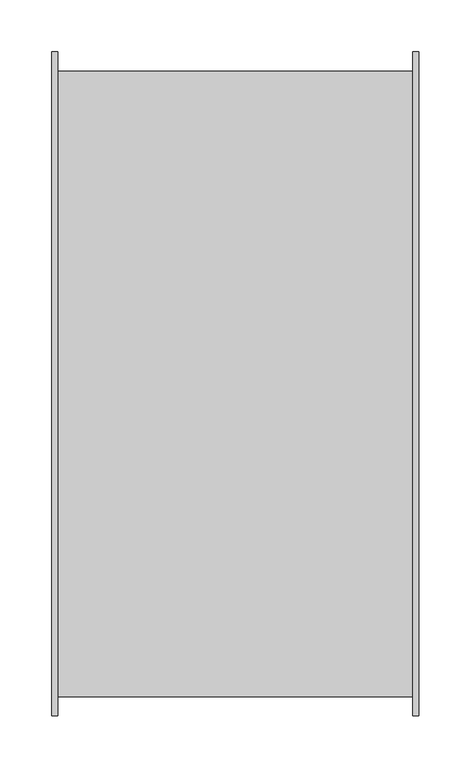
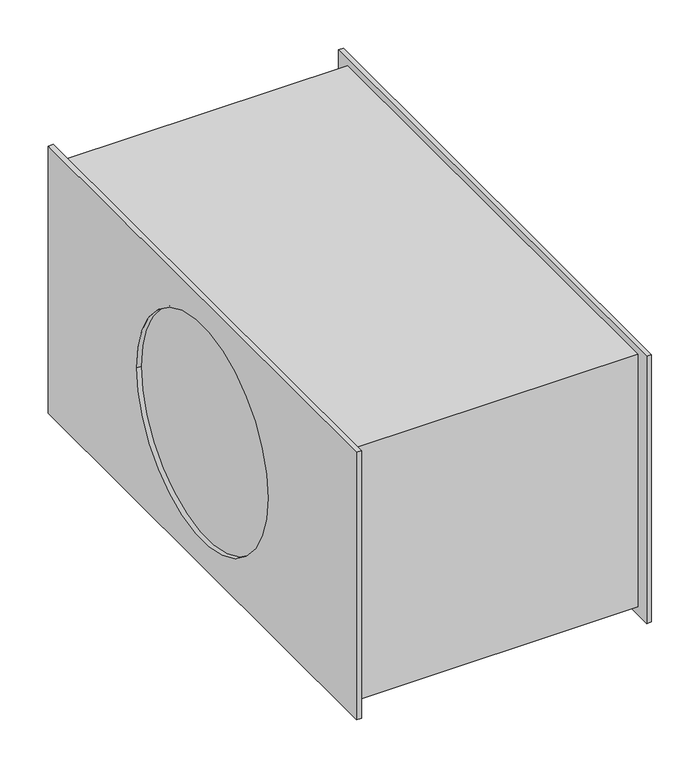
"""IFC4 building model written with IfcOpenShell, lengths in millimetres: unitary equipment geometry, VE-Wentylator-ParaForma-Harmann-JETTEC_REC_EC-Nawiewny : 060/30/2300EC."""

from ifc_helpers import new_model, si_unit, frame, origin, place, context, project, spatial, polyline, circle_curve, source, transform, mapped, element, save
from ifc_brep_helpers import plane_surface, revolved_surface, advanced_brep


def unitary_equipment_16e9e0c7(model_context):
    return source(origin(), model_context, "Body", "AdvancedBrep", [
        advanced_brep(
        [(170.8, -319.5, -169.0), (170.8, -319.5, 169.0), (170.8, 319.5, 169.0), (170.8, 319.5, -169.0), (170.8, -300.8, 160.2), (170.8, -300.8, -159.4), (170.8, 300.8, -159.4), (170.8, 300.8, 160.2), (176.6, -319.5, -169.0), (176.6, 319.5, -169.0), (176.6, 319.5, 169.0), (176.6, -319.5, 169.0), (176.6, -136.0, 0.0), (176.6, 136.0, 0.0), (170.8, 136.0, 0.0), (170.8, -136.0, 0.0), (-170.8, -136.0, 0.0), (-170.8, 136.0, 0.0), (-170.8, -300.8, -159.4), (-170.8, -300.8, 160.2), (-170.8, 300.8, 160.2), (-170.8, 300.8, -159.4), (-176.6, -319.5, -169.0), (-176.6, -319.5, 169.0), (-176.6, 319.5, 169.0), (-176.6, 319.5, -169.0), (-176.6, 136.0, 0.0), (-176.6, -136.0, 0.0), (-170.8, -319.5, -169.0), (-170.8, 319.5, -169.0), (-170.8, 319.5, 169.0), (-170.8, -319.5, 169.0)],
        [
            (0, 1),
            (1, 2),
            (2, 3),
            (3, 0),
            (4, 5),
            (5, 6),
            (6, 7),
            (7, 4),
            (8, 9),
            (9, 10),
            (10, 11),
            (11, 8),
            (12, 13, circle_curve(frame((176.6, 0.0, 0.0), z_axis=(-1.0, 0.0, 0.0), x_axis=(0.0, 1.0, 0.0)), 136.0)),
            (13, 12, circle_curve(frame((176.6, 0.0, 0.0), z_axis=(-1.0, 0.0, 0.0), x_axis=(0.0, 1.0, 0.0)), 136.0)),
            (0, 8),
            (11, 1),
            (10, 2),
            (9, 3),
            (14, 13),
            (12, 15),
            (15, 14, circle_curve(frame((170.8, 0.0, 0.0), z_axis=(-1.0, 0.0, 0.0), x_axis=(0.0, 1.0, 0.0)), 136.0)),
            (14, 15, circle_curve(frame((170.8, 0.0, 0.0), z_axis=(-1.0, 0.0, 0.0), x_axis=(0.0, 1.0, 0.0)), 136.0)),
            (16, 17, circle_curve(frame((-170.8, 0.0, 0.0), z_axis=(-1.0, 0.0, 0.0), x_axis=(0.0, 1.0, 0.0)), 136.0)),
            (17, 16, circle_curve(frame((-170.8, 0.0, 0.0), z_axis=(-1.0, 0.0, 0.0), x_axis=(0.0, 1.0, 0.0)), 136.0)),
            (18, 5),
            (4, 19),
            (19, 18),
            (7, 20),
            (20, 19),
            (6, 21),
            (21, 20),
            (18, 21),
            (22, 23),
            (23, 24),
            (24, 25),
            (25, 22),
            (26, 27, circle_curve(frame((-176.6, 0.0, 0.0), z_axis=(1.0, 0.0, 0.0), x_axis=(0.0, 1.0, 0.0)), 136.0)),
            (27, 26, circle_curve(frame((-176.6, 0.0, 0.0), z_axis=(1.0, 0.0, 0.0), x_axis=(0.0, 1.0, 0.0)), 136.0)),
            (28, 29),
            (29, 30),
            (30, 31),
            (31, 28),
            (22, 28),
            (31, 23),
            (30, 24),
            (29, 25),
            (26, 17),
            (16, 27),
        ],
        [
            plane_surface(frame((170.8, 0.0, 0.0), z_axis=(-1.0, 0.0, 0.0), x_axis=(0.0, 0.0, 1.0))),
            plane_surface(frame((176.6, 0.0, 0.0), z_axis=(1.0, 0.0, 0.0), x_axis=(0.0, 0.0, 1.0))),
            plane_surface(frame((170.8, -319.5, -169.0), z_axis=(0.0, -1.0, 0.0), x_axis=(1.0, 0.0, 0.0))),
            plane_surface(frame((170.8, -319.5, 169.0), z_axis=(0.0, 0.0, 1.0), x_axis=(1.0, 0.0, 0.0))),
            plane_surface(frame((170.8, 319.5, 169.0), z_axis=(0.0, 1.0, 0.0), x_axis=(1.0, 0.0, 0.0))),
            plane_surface(frame((170.8, 319.5, -169.0), z_axis=(0.0, 0.0, -1.0), x_axis=(1.0, 0.0, 0.0))),
            revolved_surface(polyline([(170.8, 136.0, 0.0), (176.6, 136.0, 0.0)]), (170.8, 0.0, 0.0), (-1.0, 0.0, 0.0)),
            plane_surface(frame((-170.8, 0.0, 0.0), z_axis=(-1.0, 0.0, 0.0), x_axis=(0.0, 0.0, 1.0))),
            plane_surface(frame((170.8, 0.0, 0.0), z_axis=(1.0, 0.0, 0.0), x_axis=(0.0, 0.0, 1.0))),
            plane_surface(frame((-170.8, -300.8, -159.4), z_axis=(0.0, -1.0, 0.0), x_axis=(1.0, 0.0, 0.0))),
            plane_surface(frame((-170.8, -300.8, 160.2), z_axis=(0.0, 0.0, 1.0), x_axis=(1.0, 0.0, 0.0))),
            plane_surface(frame((-170.8, 300.8, 160.2), z_axis=(0.0, 1.0, 0.0), x_axis=(1.0, 0.0, 0.0))),
            plane_surface(frame((-170.8, 300.8, -159.4), z_axis=(0.0, 0.0, -1.0), x_axis=(1.0, 0.0, 0.0))),
            plane_surface(frame((-176.6, 0.0, 0.0), z_axis=(-1.0, 0.0, 0.0), x_axis=(0.0, 0.0, 1.0))),
            plane_surface(frame((-170.8, 0.0, 0.0), z_axis=(1.0, 0.0, 0.0), x_axis=(0.0, 0.0, 1.0))),
            plane_surface(frame((-176.6, -319.5, -169.0), z_axis=(0.0, -1.0, 0.0), x_axis=(1.0, 0.0, 0.0))),
            plane_surface(frame((-176.6, -319.5, 169.0), z_axis=(0.0, 0.0, 1.0), x_axis=(1.0, 0.0, 0.0))),
            plane_surface(frame((-176.6, 319.5, 169.0), z_axis=(0.0, 1.0, 0.0), x_axis=(1.0, 0.0, 0.0))),
            plane_surface(frame((-176.6, 319.5, -169.0), z_axis=(0.0, 0.0, -1.0), x_axis=(1.0, 0.0, 0.0))),
            revolved_surface(polyline([(-176.6, 136.0, 0.0), (-170.8, 136.0, 0.0)]), (-176.6, 0.0, 0.0), (-1.0, 0.0, 0.0)),
        ],
        [
            (0, [[1, 2, 3, 4], [5, 6, 7, 8]]),
            (1, [[9, 10, 11, 12], [13, 14]]),
            (2, [[-1, 15, -12, 16]]),
            (3, [[-2, -16, -11, 17]]),
            (4, [[-3, -17, -10, 18]]),
            (5, [[-4, -18, -9, -15]]),
            (6, [[19, -13, 20, 21]]),
            (6, [[-19, 22, -20, -14]]),
            (7, [[23, 24]]),
            (8, [[-21, -22]]),
            (9, [[25, -5, 26, 27]]),
            (10, [[-26, -8, 28, 29]]),
            (11, [[-28, -7, 30, 31]]),
            (12, [[-25, 32, -30, -6]]),
            (13, [[33, 34, 35, 36], [37, 38]]),
            (14, [[39, 40, 41, 42], [-27, -29, -31, -32]]),
            (15, [[-33, 43, -42, 44]]),
            (16, [[-34, -44, -41, 45]]),
            (17, [[-35, -45, -40, 46]]),
            (18, [[-36, -46, -39, -43]]),
            (19, [[47, -23, 48, -37]]),
            (19, [[-47, -38, -48, -24]]),
        ],
    ),
    ])


if __name__ == "__main__":
    model = new_model("IFC4")
    model_context = context("Model", 3, world=origin())
    ifc_project = project(units=[si_unit("LENGTHUNIT", "METRE", prefix="MILLI")], contexts=[model_context])
    site = spatial("IfcSite", under=ifc_project)
    building = spatial("IfcBuilding", under=site)
    placement = place(None, origin())
    unitary_equipment_shape = unitary_equipment_16e9e0c7(model_context)
    element("IfcUnitaryEquipment", 1, ObjectType="VE-Wentylator-ParaForma-Harmann-JETTEC_REC_EC-Nawiewny : 060/30/2300EC", at=placement, inside=building, context=model_context, shape_type="MappedRepresentation", body=[
        mapped(unitary_equipment_shape, transform((0.0, 0.0, 0.0), x_axis=(1.0, 0.0, 0.0), y_axis=(0.0, 1.0, 0.0), z_axis=(0.0, 0.0, 1.0))),
    ])
    save(model, "model.ifc")
